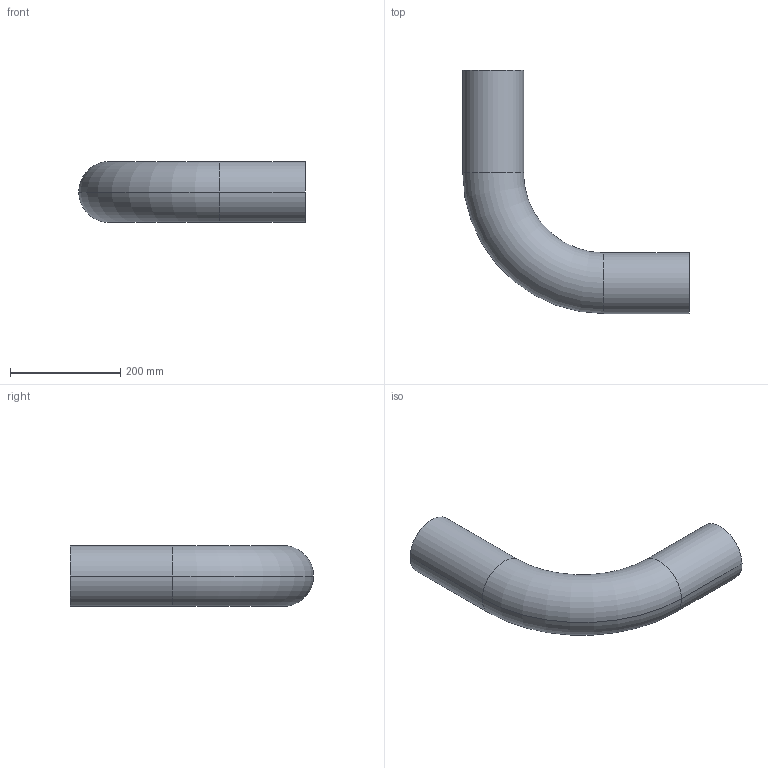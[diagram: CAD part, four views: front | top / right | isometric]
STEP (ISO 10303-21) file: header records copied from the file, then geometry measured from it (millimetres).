
FILE_DESCRIPTION (( 'STEP AP203' ), '1' );
FILE_NAME ('KP_3-110F.step', '2011-08-08T11:39:39', ( '' ), ( '' ), 'SwSTEP 2.0', 'SolidWorks 2011', '' );
FILE_SCHEMA (( 'CONFIG_CONTROL_DESIGN' ));
Length unit declared in the file: millimetre
Products named in the file (1): KP_3-110F
Bounding box: 410 x 440 x 110 mm (x, y, z)
Volume: 2147067.8 mm3; surface area: 415529.6 mm2
Topology: 1 solids, 1 shells, 14 faces, 28 edges, 16 vertices
Faces by surface type: cylinder 8, torus 4, plane 2
Entity records: 449 total; most frequent: DIRECTION 78, CARTESIAN_POINT 59, ORIENTED_EDGE 56, AXIS2_PLACEMENT_3D 35, EDGE_CURVE 28, CIRCLE 20, EDGE_LOOP 16, VERTEX_POINT 16
